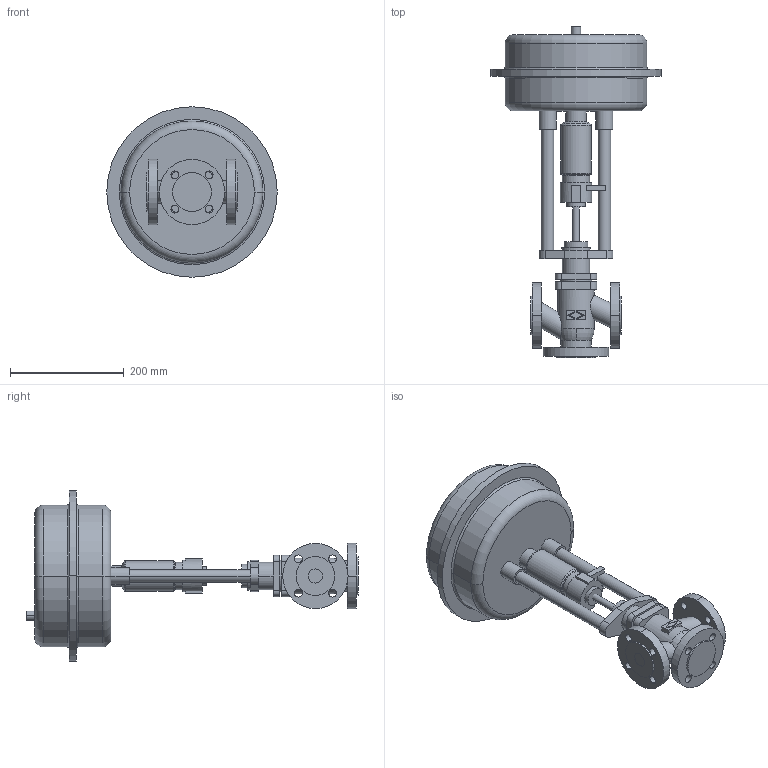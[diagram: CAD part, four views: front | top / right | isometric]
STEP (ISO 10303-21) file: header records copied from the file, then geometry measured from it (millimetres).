
FILE_DESCRIPTION(('OneSpaceDesigner STEP Export'),'2;1');
FILE_NAME('c000000671.stp','2006-09-19T10:06:57',(''),(''),'OneSpace Designer STEP processor for AP214 (Solid Model)','OneSpace Designer 13.20A 18-Aug-2005 (C) CoCreate Software GmbH','');
FILE_SCHEMA(('AUTOMOTIVE_DESIGN { 1 0 10303 214 1 1 1 1 }'));
Length unit declared in the file: millimetre
Products named in the file (2): 1; 2
Bounding box: 300 x 584.6 x 300 mm (x, y, z)
Volume: 8543765.4 mm3; surface area: 454444.7 mm2
Topology: 2 solids, 2 shells, 199 faces, 474 edges, 309 vertices
Faces by surface type: cylinder 96, plane 81, torus 18, cone 4
Entity records: 5312 total; most frequent: CARTESIAN_POINT 1002, ORIENTED_EDGE 948, DIRECTION 798, EDGE_CURVE 474, VERTEX_POINT 309, AXIS2_PLACEMENT_3D 288, EDGE_LOOP 253, VECTOR 222
